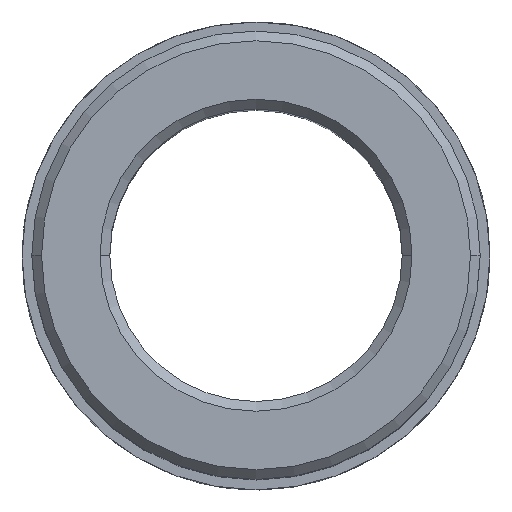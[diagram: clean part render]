
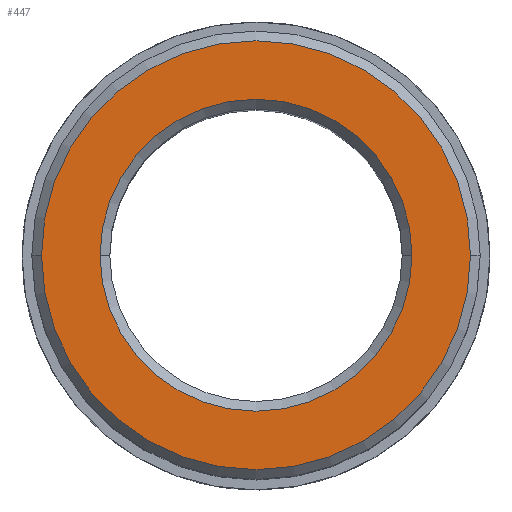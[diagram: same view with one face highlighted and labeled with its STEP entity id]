
A CAD part, top view. The second image highlights one B-rep face of the part: STEP entity #447.
In plain terms, the highlighted planar face has unit normal (0, 0, 1).
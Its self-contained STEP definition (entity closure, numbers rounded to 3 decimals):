
#329=CARTESIAN_POINT('Axis2P3D Location',(0.,0.,50.)) ;
#333=CARTESIAN_POINT('Vertex',(16.,0.,50.)) ;
#335=CARTESIAN_POINT('Vertex',(-16.,0.,50.)) ;
#408=CARTESIAN_POINT('Axis2P3D Location',(0.,0.,50.)) ;
#420=CARTESIAN_POINT('Axis2P3D Location',(16.,0.,50.)) ;
#425=CARTESIAN_POINT('Axis2P3D Location',(0.,0.,50.)) ;
#429=CARTESIAN_POINT('Vertex',(22.,0.,50.)) ;
#431=CARTESIAN_POINT('Vertex',(-22.,0.,50.)) ;
#434=CARTESIAN_POINT('Axis2P3D Location',(0.,0.,50.)) ;
#330=DIRECTION('Axis2P3D Direction',(0.,-0.,1.)) ;
#409=DIRECTION('Axis2P3D Direction',(0.,-0.,1.)) ;
#421=DIRECTION('Axis2P3D Direction',(0.,-0.,1.)) ;
#422=DIRECTION('Axis2P3D XDirection',(1.,0.,0.)) ;
#426=DIRECTION('Axis2P3D Direction',(0.,-0.,1.)) ;
#435=DIRECTION('Axis2P3D Direction',(0.,-0.,1.)) ;
#331=AXIS2_PLACEMENT_3D('Circle Axis2P3D',#329,#330,$) ;
#410=AXIS2_PLACEMENT_3D('Circle Axis2P3D',#408,#409,$) ;
#423=AXIS2_PLACEMENT_3D('Plane Axis2P3D',#420,#421,#422) ;
#427=AXIS2_PLACEMENT_3D('Circle Axis2P3D',#425,#426,$) ;
#436=AXIS2_PLACEMENT_3D('Circle Axis2P3D',#434,#435,$) ;
#440=ORIENTED_EDGE('',*,*,#433,.T.) ;
#441=ORIENTED_EDGE('',*,*,#438,.T.) ;
#444=ORIENTED_EDGE('',*,*,#412,.F.) ;
#445=ORIENTED_EDGE('',*,*,#337,.F.) ;
#446=FACE_BOUND('',#443,.T.) ;
#447=ADVANCED_FACE('734-24',(#442,#446),#424,.T.) ;
#332=CIRCLE('generated circle',#331,16.) ;
#411=CIRCLE('generated circle',#410,16.) ;
#428=CIRCLE('generated circle',#427,22.) ;
#437=CIRCLE('generated circle',#436,22.) ;
#337=EDGE_CURVE('',#334,#336,#332,.T.) ;
#412=EDGE_CURVE('',#336,#334,#411,.T.) ;
#433=EDGE_CURVE('',#430,#432,#428,.T.) ;
#438=EDGE_CURVE('',#432,#430,#437,.T.) ;
#439=EDGE_LOOP('',(#440,#441)) ;
#443=EDGE_LOOP('',(#444,#445)) ;
#442=FACE_OUTER_BOUND('',#439,.T.) ;
#424=PLANE('Plane',#423) ;
#334=VERTEX_POINT('',#333) ;
#336=VERTEX_POINT('',#335) ;
#430=VERTEX_POINT('',#429) ;
#432=VERTEX_POINT('',#431) ;
